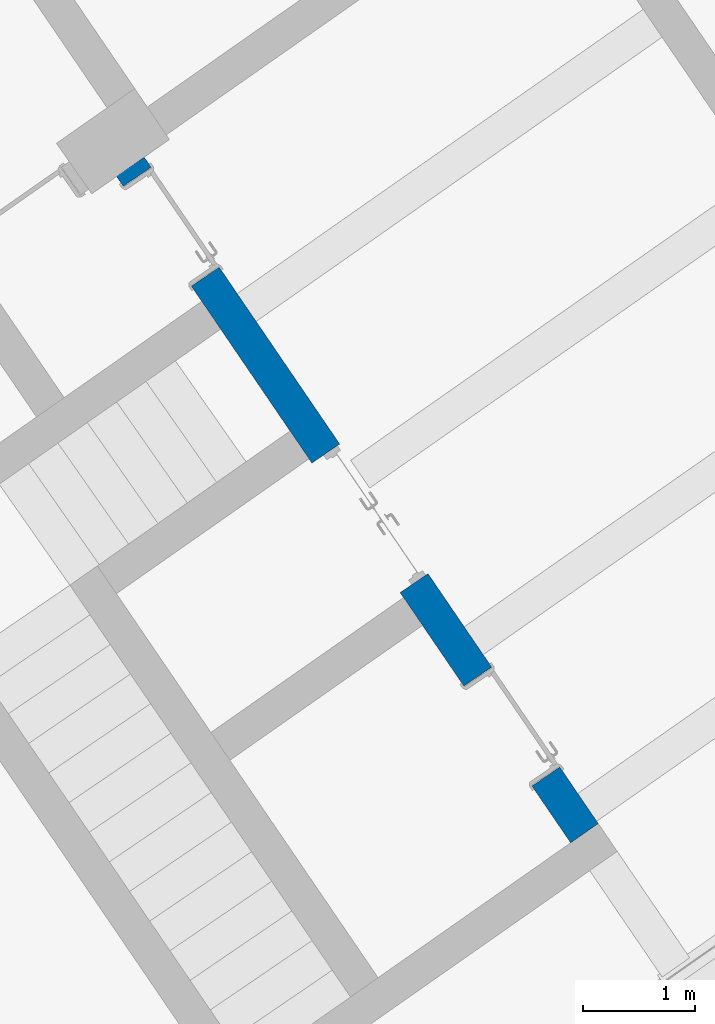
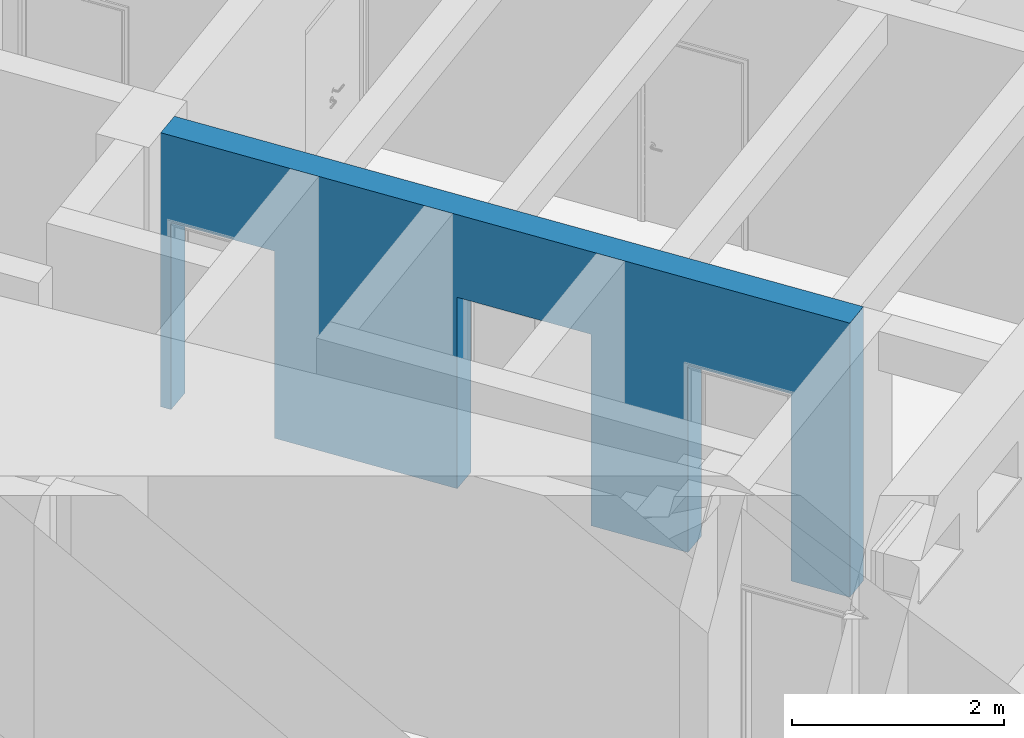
# One storey, part 41 of 112: 1 wall, 3 openings.
"""IFC2X3 building model written with IfcOpenShell, lengths in millimetres."""

from ifc_helpers import new_model, entity, si_unit, converted_unit, derived_unit, direction, frame, frame_2d, origin, place, context, subcontext, project, spatial, polyline, rectangle, outline, extrude, material, layer, layer_set, layer_usage, type_object, element, save


model = new_model("IFC2X3")

# Units and contexts
model_context = context("Model", 3, precision=0.01, world=origin(), true_north=direction((6.123031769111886e-17, 1.0)))
body_context = subcontext(model_context, "Body", "Model", "MODEL_VIEW")
ifc_project = project(units=[si_unit("LENGTHUNIT", "METRE", prefix="MILLI"), si_unit("AREAUNIT", "SQUARE_METRE"), si_unit("VOLUMEUNIT", "CUBIC_METRE"), converted_unit("PLANEANGLEUNIT", "DEGREE", entity("IfcRatioMeasure", 0.017453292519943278), si_unit("PLANEANGLEUNIT", "RADIAN"), dimensions=[0, 0, 0, 0, 0, 0, 0]), si_unit("MASSUNIT", "GRAM", prefix="KILO"), derived_unit("MASSDENSITYUNIT", [(si_unit("MASSUNIT", "GRAM", prefix="KILO"), 1), (si_unit("LENGTHUNIT", "METRE"), -3)]), derived_unit("MOMENTOFINERTIAUNIT", [(si_unit("LENGTHUNIT", "METRE"), 4)]), si_unit("TIMEUNIT", "SECOND"), si_unit("FREQUENCYUNIT", "HERTZ"), si_unit("THERMODYNAMICTEMPERATUREUNIT", "DEGREE_CELSIUS"), derived_unit("THERMALTRANSMITTANCEUNIT", [(si_unit("MASSUNIT", "GRAM", prefix="KILO"), 1), (si_unit("THERMODYNAMICTEMPERATUREUNIT", "KELVIN"), -1), (si_unit("TIMEUNIT", "SECOND"), -3)]), derived_unit("THERMALCONDUCTANCEUNIT", [(si_unit("MASSUNIT", "GRAM", prefix="KILO"), 1), (si_unit("LENGTHUNIT", "METRE"), 1), (si_unit("THERMODYNAMICTEMPERATUREUNIT", "KELVIN"), -1), (si_unit("TIMEUNIT", "SECOND"), -3)]), derived_unit("VOLUMETRICFLOWRATEUNIT", [(si_unit("LENGTHUNIT", "METRE"), 3), (si_unit("TIMEUNIT", "SECOND"), -1)]), derived_unit("MASSFLOWRATEUNIT", [(si_unit("MASSUNIT", "GRAM", prefix="KILO"), 1), (si_unit("TIMEUNIT", "SECOND"), -1)]), derived_unit("ROTATIONALFREQUENCYUNIT", [(si_unit("TIMEUNIT", "SECOND"), -1)]), si_unit("ELECTRICCURRENTUNIT", "AMPERE"), si_unit("ELECTRICVOLTAGEUNIT", "VOLT"), si_unit("POWERUNIT", "WATT"), converted_unit("FORCEUNIT", "KIP", entity("IfcRatioMeasure", 2.088543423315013e-05), si_unit("FORCEUNIT", "NEWTON"), dimensions=[1, 1, -2, 0, 0, 0, 0]), si_unit("ILLUMINANCEUNIT", "LUX"), si_unit("LUMINOUSFLUXUNIT", "LUMEN"), si_unit("LUMINOUSINTENSITYUNIT", "CANDELA"), derived_unit("USERDEFINED", [(si_unit("MASSUNIT", "GRAM", prefix="KILO"), -1), (si_unit("LENGTHUNIT", "METRE"), -2), (si_unit("TIMEUNIT", "SECOND"), 3), (si_unit("LUMINOUSFLUXUNIT", "LUMEN"), 1)]), derived_unit("USERDEFINED", [(si_unit("MASSUNIT", "GRAM", prefix="KILO"), 1), (si_unit("LENGTHUNIT", "METRE"), 3), (si_unit("TIMEUNIT", "SECOND"), -3), (si_unit("ELECTRICCURRENTUNIT", "AMPERE"), -2)]), derived_unit("USERDEFINED", [(si_unit("LENGTHUNIT", "METRE"), 2), (si_unit("TIMEUNIT", "SECOND"), -2)]), derived_unit("SOUNDPOWERUNIT", [(si_unit("MASSUNIT", "GRAM", prefix="KILO"), 1), (si_unit("LENGTHUNIT", "METRE"), 2), (si_unit("TIMEUNIT", "SECOND"), -3)]), derived_unit("SOUNDPRESSUREUNIT", [(si_unit("MASSUNIT", "GRAM", prefix="KILO"), 1), (si_unit("LENGTHUNIT", "METRE"), -1), (si_unit("TIMEUNIT", "SECOND"), -2)]), derived_unit("LINEARVELOCITYUNIT", [(si_unit("LENGTHUNIT", "METRE"), 1), (si_unit("TIMEUNIT", "SECOND"), -1)]), si_unit("PRESSUREUNIT", "PASCAL"), derived_unit("USERDEFINED", [(si_unit("LENGTHUNIT", "METRE"), -2), (si_unit("MASSUNIT", "GRAM", prefix="KILO"), 1), (si_unit("TIMEUNIT", "SECOND"), -2)]), derived_unit("LINEARFORCEUNIT", [(si_unit("MASSUNIT", "GRAM", prefix="KILO"), 1), (si_unit("LENGTHUNIT", "METRE"), 1), (si_unit("TIMEUNIT", "SECOND"), -2), (si_unit("LENGTHUNIT", "METRE"), -1)]), derived_unit("PLANARFORCEUNIT", [(si_unit("MASSUNIT", "GRAM", prefix="KILO"), 1), (si_unit("LENGTHUNIT", "METRE"), 1), (si_unit("TIMEUNIT", "SECOND"), -2), (si_unit("LENGTHUNIT", "METRE"), -2)]), derived_unit("SPECIFICHEATCAPACITYUNIT", [(si_unit("LENGTHUNIT", "METRE"), 2), (si_unit("TIMEUNIT", "SECOND"), -2), (si_unit("THERMODYNAMICTEMPERATUREUNIT", "KELVIN"), -1)]), derived_unit("VAPORPERMEABILITYUNIT", [(si_unit("TIMEUNIT", "SECOND"), 1), (si_unit("LENGTHUNIT", "METRE"), -1)]), derived_unit("DYNAMICVISCOSITYUNIT", [(si_unit("MASSUNIT", "GRAM", prefix="KILO"), 1), (si_unit("LENGTHUNIT", "METRE"), -1), (si_unit("TIMEUNIT", "SECOND"), -1)]), derived_unit("THERMALEXPANSIONCOEFFICIENTUNIT", [(si_unit("THERMODYNAMICTEMPERATUREUNIT", "KELVIN"), -1)])], contexts=[model_context])

# Site, building, storey
site_placement = place(None, frame((0.0, 0.0, 0.0), z_axis=(0.0, 0.0, 1.0), x_axis=(0.8191520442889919, 0.5735764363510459, 0.0)))
site = spatial("IfcSite", under=ifc_project, at=site_placement, Name="Default", CompositionType="ELEMENT")
building_placement = place(site_placement, origin())
building = spatial("IfcBuilding", under=site, at=building_placement, CompositionType="ELEMENT")
storey_placement = place(building_placement, frame((0.0, 0.0, -3600.0)))
storey = spatial("IfcBuildingStorey", under=building, at=storey_placement, Name="0.UG -3.60", CompositionType="ELEMENT", Elevation=-3600.0000000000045)

# Wall, openings
ifc_material = material(Name="Analytical Wall Surface_CJC")
ifc_layer = layer(ifc_material, 300.0)
ifc_layer_set = layer_set([ifc_layer], Name="Basic Wall:Wand_Aussen_30")
ifc_layer_usage = layer_usage(ifc_layer_set, "AXIS2", "POSITIVE", -150.0)
wall_type = type_object("IfcWallType", Name="Basic Wall:Wand_Aussen_30", PredefinedType="STANDARD", material=ifc_layer_set)
wall_placement = place(storey_placement, frame((-217707.97305096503, 54019.44947620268, 300.0), z_axis=(0.0, 0.0, 1.0), x_axis=(0.012729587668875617, 0.9999189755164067, 0.0)))
wall = element("IfcWallStandardCase", 1, at=wall_placement, inside=storey, type_object=wall_type, material=ifc_layer_usage, Name="Basic Wall:Wand_Aussen_30", ObjectType="Basic Wall:Wand_Aussen_30", context=body_context, shape_type="SweptSolid", body=[
    extrude(outline(polyline([(3.819185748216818, -150.0), (28.821211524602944, -150.0), (328.84552083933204, -150.0), (1828.9670674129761, -150.0), (2128.9913767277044, -150.0), (3629.112923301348, -150.0), (3929.137232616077, -150.0), (5429.258779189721, -150.0), (5729.28308850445, -150.0), (7204.402609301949, -150.0), (7204.402609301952, 150.0), (5850.474031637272, 150.0), (5550.4497223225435, 150.0), (4449.956193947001, 150.0), (4149.931884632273, 150.0), (2650.2147322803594, 150.0), (2350.1904229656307, 150.0), (0.0, 150.0), (3.819185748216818, -150.0)])), origin(), (0.0, 0.0, 1.0), 3150.0),
])
opening_1_placement = place(wall_placement, frame((1693.952886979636, 150.0, 0.0)))
element("IfcOpeningElement", 2, at=opening_1_placement, cuts=wall, Name="Doors_IntSgl:100x210:1", ObjectType="Opening", context=body_context, shape_type="SweptSolid", body=[
    extrude(rectangle(XDim=2150.000000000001, YDim=1079.9999999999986, at=frame_2d((1075.0000000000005, 539.9999999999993), x_axis=(1.0, 0.0))), frame((0.0, 0.0, 0.0), z_axis=(0.0, -1.0, 0.0), x_axis=(0.0, 0.0, 1.0)), (0.0, 0.0, 1.0), 300.0),
])
opening_2_placement = place(wall_placement, frame((7094.3094235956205, 150.0, 0.0)))
element("IfcOpeningElement", 3, at=opening_2_placement, cuts=wall, Name="Doors_IntSgl:100x210:1", ObjectType="Opening", context=body_context, shape_type="SweptSolid", body=[
    extrude(rectangle(XDim=2150.000000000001, YDim=1079.9999999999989, at=frame_2d((1075.0000000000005, 539.9999999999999), x_axis=(1.0, 0.0))), frame((0.0, 0.0, 0.0), z_axis=(0.0, -1.0, 0.0), x_axis=(0.0, 0.0, 1.0)), (0.0, 0.0, 1.0), 300.0),
])
opening_3_placement = place(wall_placement, frame((4104.042021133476, 150.0, 0.0)))
element("IfcOpeningElement", 4, at=opening_3_placement, cuts=wall, Name="M_Door-Passage-Double-Flush:130x210:1", ObjectType="Opening", context=body_context, shape_type="SweptSolid", body=[
    extrude(rectangle(XDim=2200.0, YDim=1399.999999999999, at=frame_2d((1100.0, 699.9999999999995), x_axis=(1.0, 0.0))), frame((0.0, 0.0, 0.0), z_axis=(0.0, -1.0, 0.0), x_axis=(0.0, 0.0, 1.0)), (0.0, 0.0, 1.0), 300.0),
])

save(model, "model.ifc")
